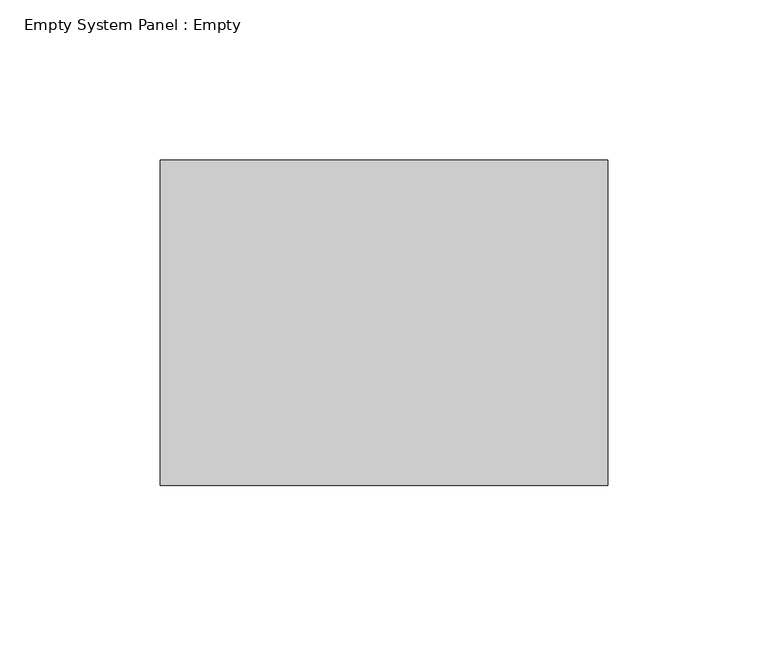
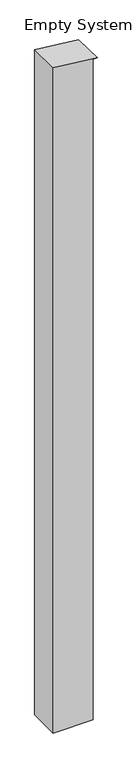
"""IFC4 building model written with IfcOpenShell, lengths in millimetres: plate geometry, Empty System Panel : Empty."""

from ifc_helpers import new_model, si_unit, frame, origin, place, context, project, spatial, polyline, outline, extrude, source, transform, mapped, element, save


def empty_system_panel_empty_c47446b8(model_context):
    return source(origin(), model_context, "Body", "SweptSolid", [
        extrude(outline(polyline([(0.0, -69.85), (0.0, 57.15), (2212.941175, 57.15), (2212.941175, 69.85), (2228.5663649, -69.85), (0.0, -69.85)])), frame((0.0, -50.8, 0.0), z_axis=(0.0, 1.0, 0.0), x_axis=(0.0, 0.0, 1.0)), (0.0, 0.0, 1.0), 101.6),
    ])


if __name__ == "__main__":
    model = new_model("IFC4")
    model_context = context("Model", 3, world=origin())
    ifc_project = project(units=[si_unit("LENGTHUNIT", "METRE", prefix="MILLI")], contexts=[model_context])
    site = spatial("IfcSite", under=ifc_project)
    building = spatial("IfcBuilding", under=site)
    placement = place(None, origin())
    empty_system_panel_empty_shape = empty_system_panel_empty_c47446b8(model_context)
    element("IfcPlate", 1, ObjectType="Empty System Panel : Empty", at=placement, inside=building, context=model_context, shape_type="MappedRepresentation", body=[
        mapped(empty_system_panel_empty_shape, transform((0.0, 0.0, 0.0), x_axis=(1.0, 0.0, 0.0), y_axis=(0.0, 1.0, 0.0), z_axis=(0.0, 0.0, 1.0))),
    ])
    save(model, "model.ifc")
